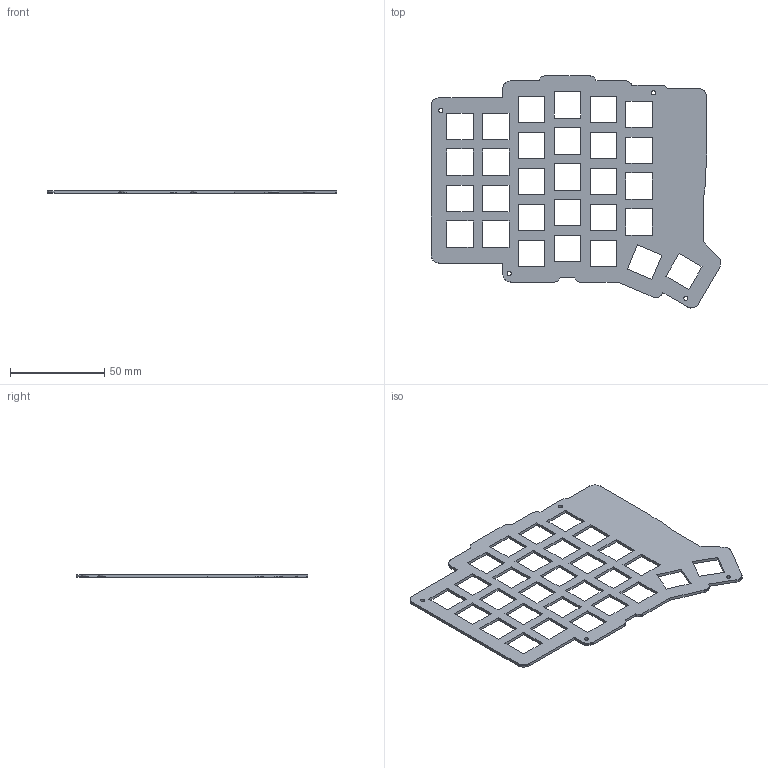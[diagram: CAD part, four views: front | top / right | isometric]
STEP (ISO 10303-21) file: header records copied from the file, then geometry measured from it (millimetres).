
FILE_DESCRIPTION(('Open CASCADE Model'),'2;1');
FILE_NAME('Open CASCADE Shape Model','1979-01-01T00:00:00',('Author'),( 'Open CASCADE'),'Open CASCADE STEP processor 8.0','Open CASCADE 8.0' ,'Unknown');
FILE_SCHEMA(('AUTOMOTIVE_DESIGN { 1 0 10303 214 1 1 1 1 }'));
Length unit declared in the file: millimetre
Products named in the file (1): Open CASCADE STEP translator 8.0 2
Bounding box: 153.76 x 123.03 x 1.5 mm (x, y, z)
Volume: 14197.1 mm3; surface area: 22185.7 mm2
Topology: 1 solids, 1 shells, 292 faces, 870 edges, 580 vertices
Faces by surface type: plane 288, cylinder 4
Full cylindrical faces by diameter (mm): 2.2 x4
Entity records: 21054 total; most frequent: CARTESIAN_POINT 3483, DIRECTION 3204, LINE 2594, VECTOR 2594, ORIENTED_EDGE 1740, PCURVE 1740, DEFINITIONAL_REPRESENTATION 1740, EDGE_CURVE 870
